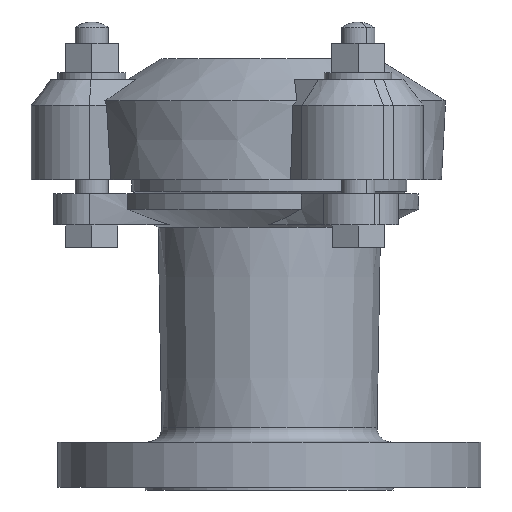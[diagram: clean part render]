
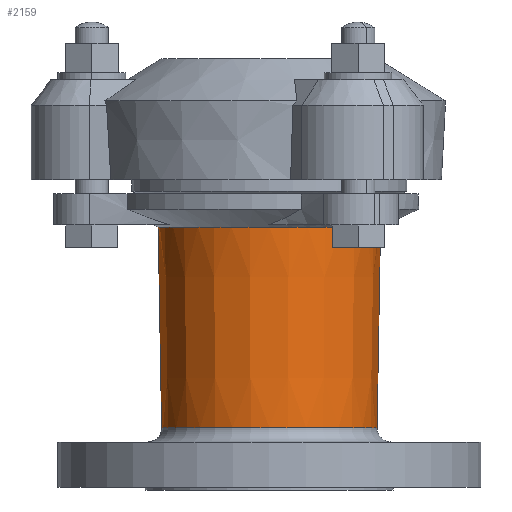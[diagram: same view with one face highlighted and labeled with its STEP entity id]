
A CAD part, left-side view. The second image highlights one B-rep face of the part: STEP entity #2159.
In plain terms, the highlighted conical face has half-angle 0.979 degrees and reference radius 38.816 mm.
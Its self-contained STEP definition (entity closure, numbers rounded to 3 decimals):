
#110=CARTESIAN_POINT('',(0.,0.,93.277));
#111=DIRECTION('',(0.,0.,1.));
#112=DIRECTION('',(0.,1.,0.));
#113=AXIS2_PLACEMENT_3D('',#110,#111,#112);
#566=DIRECTION('',(0.,0.017,1.));
#567=VECTOR('',#566,71.202);
#568=CARTESIAN_POINT('',(0.,38.208,22.085));
#569=LINE('',#568,#567);
#575=DIRECTION('',(0.,-0.017,1.));
#576=VECTOR('',#575,71.202);
#577=CARTESIAN_POINT('',(0.,-38.208,22.085));
#578=LINE('',#577,#576);
#579=CARTESIAN_POINT('',(0.,0.,22.085));
#580=DIRECTION('',(0.,0.,1.));
#581=DIRECTION('',(0.,1.,0.));
#582=AXIS2_PLACEMENT_3D('',#579,#580,#581);
#1075=CARTESIAN_POINT('',(0.,38.208,22.085));
#1076=CARTESIAN_POINT('',(0.,39.424,93.277));
#1077=VERTEX_POINT('',#1075);
#1078=VERTEX_POINT('',#1076);
#1079=CARTESIAN_POINT('',(0.,-38.208,22.085));
#1080=CARTESIAN_POINT('',(0.,-39.424,93.277));
#1081=VERTEX_POINT('',#1079);
#1082=VERTEX_POINT('',#1080);
#2147=CARTESIAN_POINT('',(0.,0.,57.681));
#2148=DIRECTION('',(0.,0.,1.));
#2149=DIRECTION('',(0.,1.,0.));
#2150=AXIS2_PLACEMENT_3D('',#2147,#2148,#2149);
#2151=CONICAL_SURFACE('',#2150,38.816,0.979);
#2152=ORIENTED_EDGE('',*,*,#2137,.T.);
#2153=ORIENTED_EDGE('',*,*,#1519,.T.);
#2154=ORIENTED_EDGE('',*,*,#2141,.F.);
#2156=ORIENTED_EDGE('',*,*,#2155,.F.);
#2157=EDGE_LOOP('',(#2152,#2153,#2154,#2156));
#2158=FACE_OUTER_BOUND('',#2157,.F.);
#2159=ADVANCED_FACE('',(#2158),#2151,.T.);
#114=CIRCLE('',#113,39.424);
#583=CIRCLE('',#582,38.208);
#1519=EDGE_CURVE('',#1078,#1082,#114,.T.);
#2137=EDGE_CURVE('',#1077,#1078,#569,.T.);
#2141=EDGE_CURVE('',#1081,#1082,#578,.T.);
#2155=EDGE_CURVE('',#1077,#1081,#583,.T.);
